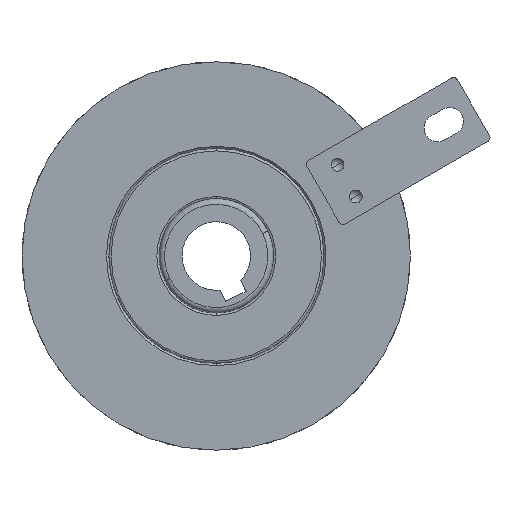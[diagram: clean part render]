
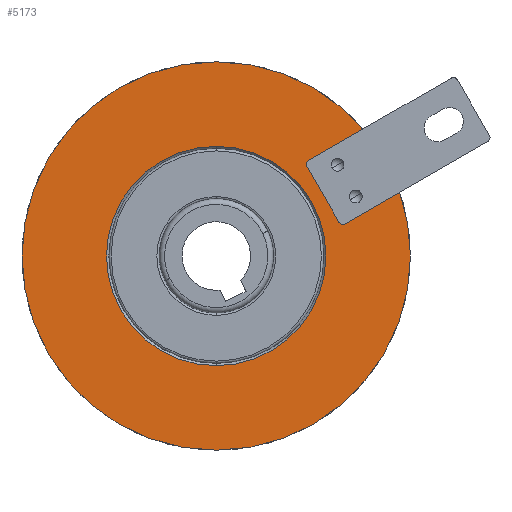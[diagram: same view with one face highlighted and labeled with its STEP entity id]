
A CAD part, front view. The second image highlights one B-rep face of the part: STEP entity #5173.
In plain terms, the highlighted planar face has unit normal (0, -1, 0).
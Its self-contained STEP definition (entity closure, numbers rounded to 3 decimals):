
#123 = VERTEX_POINT ( 'NONE', #1404 ) ;
#166 = EDGE_CURVE ( 'NONE', #1778, #7226, #7248, .T. ) ;
#452 = ORIENTED_EDGE ( 'NONE', *, *, #166, .F. ) ;
#584 = AXIS2_PLACEMENT_3D ( 'NONE', #594, #5086, #1235 ) ;
#594 = CARTESIAN_POINT ( 'NONE',  ( 50., -9.066, 0. ) ) ;
#602 = CIRCLE ( 'NONE', #4151, 24. ) ;
#1012 = EDGE_CURVE ( 'NONE', #7226, #1778, #3211, .T. ) ;
#1067 = AXIS2_PLACEMENT_3D ( 'NONE', #3465, #3553, #3490 ) ;
#1235 = DIRECTION ( 'NONE',  ( 0., 0., 1. ) ) ;
#1404 = CARTESIAN_POINT ( 'NONE',  ( 0., -9.066, 24. ) ) ;
#1432 = EDGE_LOOP ( 'NONE', ( #4594, #452 ) ) ;
#1778 = VERTEX_POINT ( 'NONE', #3197 ) ;
#1887 = AXIS2_PLACEMENT_3D ( 'NONE', #6271, #2397, #6913 ) ;
#1989 = DIRECTION ( 'NONE',  ( 0., 1., 0. ) ) ;
#2397 = DIRECTION ( 'NONE',  ( 0., 1., 0. ) ) ;
#3085 = FACE_OUTER_BOUND ( 'NONE', #1432, .T. ) ;
#3197 = CARTESIAN_POINT ( 'NONE',  ( 0., -9.066, -42.5 ) ) ;
#3211 = CIRCLE ( 'NONE', #1887, 42.5 ) ;
#3263 = VERTEX_POINT ( 'NONE', #5773 ) ;
#3372 = ORIENTED_EDGE ( 'NONE', *, *, #5715, .T. ) ;
#3465 = CARTESIAN_POINT ( 'NONE',  ( 0., -9.066, 0. ) ) ;
#3490 = DIRECTION ( 'NONE',  ( 0., 0., 1. ) ) ;
#3553 = DIRECTION ( 'NONE',  ( 0., 1., 0. ) ) ;
#3568 = EDGE_LOOP ( 'NONE', ( #3372, #4506 ) ) ;
#4085 = EDGE_CURVE ( 'NONE', #123, #3263, #602, .T. ) ;
#4126 = CARTESIAN_POINT ( 'NONE',  ( 0., -9.066, 42.5 ) ) ;
#4151 = AXIS2_PLACEMENT_3D ( 'NONE', #8192, #8348, #4481 ) ;
#4481 = DIRECTION ( 'NONE',  ( 0., 0., 1. ) ) ;
#4506 = ORIENTED_EDGE ( 'NONE', *, *, #4085, .T. ) ;
#4594 = ORIENTED_EDGE ( 'NONE', *, *, #1012, .F. ) ;
#4998 = CIRCLE ( 'NONE', #7585, 24. ) ;
#5086 = DIRECTION ( 'NONE',  ( 0., 1., 0. ) ) ;
#5173 = ADVANCED_FACE ( 'NONE', ( #8240, #3085 ), #8265, .F. ) ;
#5715 = EDGE_CURVE ( 'NONE', #3263, #123, #4998, .T. ) ;
#5773 = CARTESIAN_POINT ( 'NONE',  ( 0., -9.066, -24. ) ) ;
#5859 = CARTESIAN_POINT ( 'NONE',  ( 0., -9.066, 0. ) ) ;
#6271 = CARTESIAN_POINT ( 'NONE',  ( 0., -9.066, 0. ) ) ;
#6502 = DIRECTION ( 'NONE',  ( 0., 0., 1. ) ) ;
#6913 = DIRECTION ( 'NONE',  ( 0., 0., 1. ) ) ;
#7226 = VERTEX_POINT ( 'NONE', #4126 ) ;
#7248 = CIRCLE ( 'NONE', #1067, 42.5 ) ;
#7585 = AXIS2_PLACEMENT_3D ( 'NONE', #5859, #1989, #6502 ) ;
#8192 = CARTESIAN_POINT ( 'NONE',  ( 0., -9.066, 0. ) ) ;
#8240 = FACE_BOUND ( 'NONE', #3568, .T. ) ;
#8265 = PLANE ( 'NONE',  #584 ) ;
#8348 = DIRECTION ( 'NONE',  ( 0., 1., 0. ) ) ;
